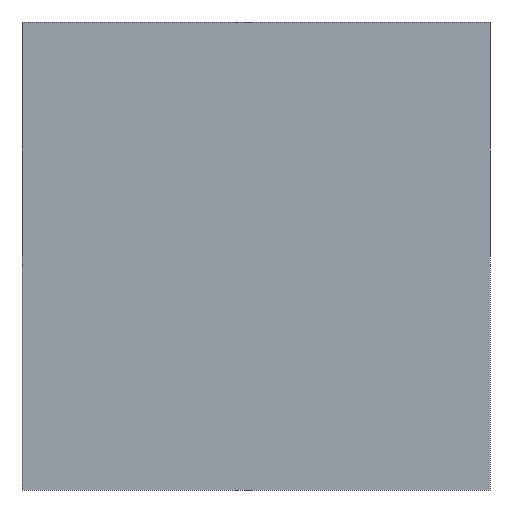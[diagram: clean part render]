
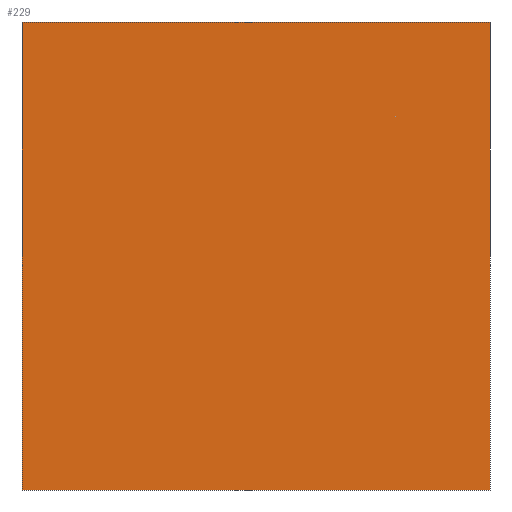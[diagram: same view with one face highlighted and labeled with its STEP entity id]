
A CAD part, front view. The second image highlights one B-rep face of the part: STEP entity #229.
In plain terms, the highlighted planar face has unit normal (0, -1, 0).
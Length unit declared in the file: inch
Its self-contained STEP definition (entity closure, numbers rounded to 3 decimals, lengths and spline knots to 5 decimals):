
#77 = VERTEX_POINT ( 'NONE', #372 ) ;
#99 = LINE ( 'NONE', #102, #101 ) ;
#100 = DIRECTION ( 'NONE',  ( 0., 0., 1. ) ) ;
#101 = VECTOR ( 'NONE', #100, 39.37008 ) ;
#102 = CARTESIAN_POINT ( 'NONE',  ( -1., 0., 1. ) ) ;
#106 = EDGE_CURVE ( 'NONE', #112, #240, #417, .T. ) ;
#107 = EDGE_LOOP ( 'NONE', ( #268, #206, #230, #115 ) ) ;
#112 = VERTEX_POINT ( 'NONE', #331 ) ;
#115 = ORIENTED_EDGE ( 'NONE', *, *, #270, .F. ) ;
#160 = EDGE_CURVE ( 'NONE', #240, #77, #341, .T. ) ;
#206 = ORIENTED_EDGE ( 'NONE', *, *, #106, .F. ) ;
#229 = ADVANCED_FACE ( 'NONE', ( #480 ), #484, .F. ) ;
#230 = ORIENTED_EDGE ( 'NONE', *, *, #237, .F. ) ;
#236 = VERTEX_POINT ( 'NONE', #476 ) ;
#237 = EDGE_CURVE ( 'NONE', #236, #112, #478, .T. ) ;
#240 = VERTEX_POINT ( 'NONE', #505 ) ;
#268 = ORIENTED_EDGE ( 'NONE', *, *, #160, .F. ) ;
#270 = EDGE_CURVE ( 'NONE', #77, #236, #99, .T. ) ;
#331 = CARTESIAN_POINT ( 'NONE',  ( 1., 0., 1. ) ) ;
#335 = DIRECTION ( 'NONE',  ( -1., 0., 0. ) ) ;
#336 = VECTOR ( 'NONE', #335, 39.37008 ) ;
#337 = CARTESIAN_POINT ( 'NONE',  ( -1., 0., -1. ) ) ;
#341 = LINE ( 'NONE', #337, #336 ) ;
#372 = CARTESIAN_POINT ( 'NONE',  ( -1., 0., -1. ) ) ;
#404 = DIRECTION ( 'NONE',  ( 0., 0., -1. ) ) ;
#405 = VECTOR ( 'NONE', #404, 39.37008 ) ;
#416 = CARTESIAN_POINT ( 'NONE',  ( 1., 0., 1. ) ) ;
#417 = LINE ( 'NONE', #416, #405 ) ;
#437 = DIRECTION ( 'NONE',  ( 0., 0., 1. ) ) ;
#442 = CARTESIAN_POINT ( 'NONE',  ( -1., 0., 1. ) ) ;
#475 = AXIS2_PLACEMENT_3D ( 'NONE', #442, #486, #437 ) ;
#476 = CARTESIAN_POINT ( 'NONE',  ( -1., 0., 1. ) ) ;
#477 = CARTESIAN_POINT ( 'NONE',  ( -1., 0., 1. ) ) ;
#478 = LINE ( 'NONE', #477, #507 ) ;
#480 = FACE_OUTER_BOUND ( 'NONE', #107, .T. ) ;
#484 = PLANE ( 'NONE',  #475 ) ;
#486 = DIRECTION ( 'NONE',  ( 0., 1., 0. ) ) ;
#505 = CARTESIAN_POINT ( 'NONE',  ( 1., 0., -1. ) ) ;
#506 = DIRECTION ( 'NONE',  ( 1., 0., 0. ) ) ;
#507 = VECTOR ( 'NONE', #506, 39.37008 ) ;
